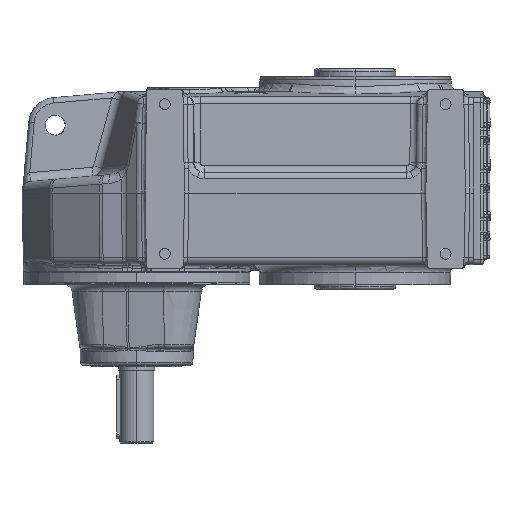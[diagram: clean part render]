
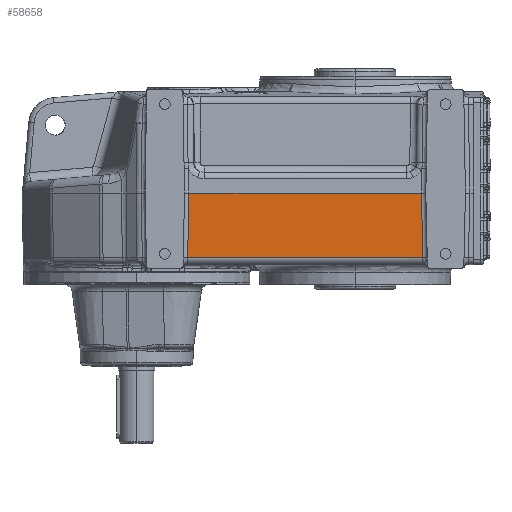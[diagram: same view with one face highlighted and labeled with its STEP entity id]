
A CAD part, left-side view. The second image highlights one B-rep face of the part: STEP entity #58658.
In plain terms, the highlighted planar face has unit normal (-1, 0, -0.02) as drawn and (1, 0, 0.02) by its records, which use the part's own axes.
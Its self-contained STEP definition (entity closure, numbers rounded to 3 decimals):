
#75 = EDGE_CURVE ( 'NONE', #2947, #97424, #72453, .T. ) ;
#2947 = VERTEX_POINT ( 'NONE', #38593 ) ;
#6425 = CARTESIAN_POINT ( 'NONE',  ( 159.086, -314.406, -79. ) ) ;
#7729 = CARTESIAN_POINT ( 'NONE',  ( 159.086, -57.594, -79. ) ) ;
#10249 = CARTESIAN_POINT ( 'NONE',  ( 157.657, -56.289, -7.839 ) ) ;
#12245 = LINE ( 'NONE', #116617, #49336 ) ;
#12819 = DIRECTION ( 'NONE',  ( 0.02, 0., -1. ) ) ;
#13084 = DIRECTION ( 'NONE',  ( 0., 1., 0. ) ) ;
#20644 = EDGE_CURVE ( 'NONE', #37697, #2947, #31402, .T. ) ;
#25339 = VECTOR ( 'NONE', #13084, 1000. ) ;
#28493 = VERTEX_POINT ( 'NONE', #51840 ) ;
#31135 = DIRECTION ( 'NONE',  ( 1., 0., 0.02 ) ) ;
#31402 = LINE ( 'NONE', #58267, #25339 ) ;
#37697 = VERTEX_POINT ( 'NONE', #6425 ) ;
#38593 = CARTESIAN_POINT ( 'NONE',  ( 159.086, -57.594, -79. ) ) ;
#40450 = LINE ( 'NONE', #105791, #110728 ) ;
#49336 = VECTOR ( 'NONE', #106275, 1000. ) ;
#51840 = CARTESIAN_POINT ( 'NONE',  ( 157.657, -315.711, -7.839 ) ) ;
#51869 = FACE_OUTER_BOUND ( 'NONE', #76046, .T. ) ;
#58267 = CARTESIAN_POINT ( 'NONE',  ( 159.086, -51., -79. ) ) ;
#58658 = ADVANCED_FACE ( 'NONE', ( #51869 ), #77533, .T. ) ;
#67328 = DIRECTION ( 'NONE',  ( 0.02, 0.018, -1. ) ) ;
#69688 = ORIENTED_EDGE ( 'NONE', *, *, #77873, .F. ) ;
#72453 = LINE ( 'NONE', #7729, #120122 ) ;
#73071 = DIRECTION ( 'NONE',  ( -0.02, 0.018, 1. ) ) ;
#73114 = ORIENTED_EDGE ( 'NONE', *, *, #20644, .T. ) ;
#76046 = EDGE_LOOP ( 'NONE', ( #73114, #92401, #69688, #98410 ) ) ;
#77533 = PLANE ( 'NONE',  #95445 ) ;
#77873 = EDGE_CURVE ( 'NONE', #28493, #97424, #12245, .T. ) ;
#79920 = CARTESIAN_POINT ( 'NONE',  ( 157.5, -51., 0. ) ) ;
#92401 = ORIENTED_EDGE ( 'NONE', *, *, #75, .T. ) ;
#95445 = AXIS2_PLACEMENT_3D ( 'NONE', #79920, #31135, #12819 ) ;
#97424 = VERTEX_POINT ( 'NONE', #10249 ) ;
#98410 = ORIENTED_EDGE ( 'NONE', *, *, #101694, .T. ) ;
#101694 = EDGE_CURVE ( 'NONE', #28493, #37697, #40450, .T. ) ;
#105791 = CARTESIAN_POINT ( 'NONE',  ( 157.657, -315.711, -7.839 ) ) ;
#106275 = DIRECTION ( 'NONE',  ( 0., 1., 0. ) ) ;
#110728 = VECTOR ( 'NONE', #67328, 1000. ) ;
#116617 = CARTESIAN_POINT ( 'NONE',  ( 157.657, 0., -7.839 ) ) ;
#120122 = VECTOR ( 'NONE', #73071, 1000. ) ;
